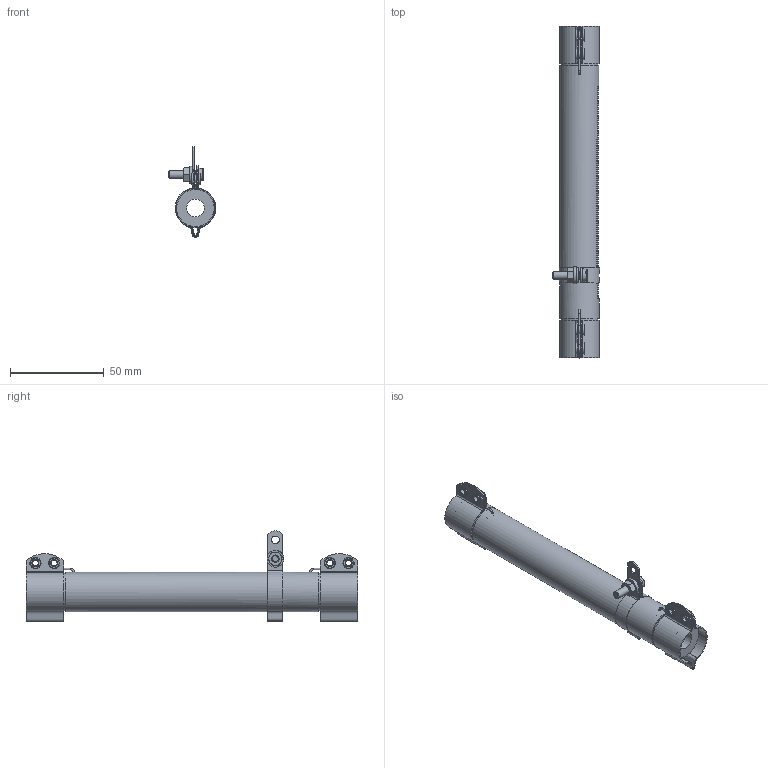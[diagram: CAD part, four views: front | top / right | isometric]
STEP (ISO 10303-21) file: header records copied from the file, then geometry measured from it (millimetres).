
FILE_DESCRIPTION(/* description */ (''),/* implementation_level */ '2;1');
FILE_NAME(/* name */ 'C:\_Vault\Dati\CATALOGO\RC-RS\RC-RS R TF\RSR TF 110.stp',/* time_stamp */ '2014-03-21T09:11:18+01:00',/* author */ ('stefano'),/* organization */ (''),/* preprocessor_version */ 'ST-DEVELOPER v15.2',/* originating_system */ 'Autodesk Inventor 2014',/* authorisation */ '');
FILE_SCHEMA (('AUTOMOTIVE_DESIGN { 1 0 10303 214 3 1 1 }'));
Length unit declared in the file: millimetre
Products named in the file (1): RSR TF 110
Bounding box: 25.25 x 177 x 48.2 mm (x, y, z)
Volume: 46913.2 mm3; surface area: 22714.8 mm2
Topology: 1 solids, 5 shells, 511 faces, 1416 edges, 933 vertices
Faces by surface type: plane 338, cylinder 125, torus 20, cone 16, bspline 12
Full cylindrical faces by diameter (mm): 0.4 x2, 0.8 x4, 3.2 x4, 3.571 x1, 4 x2, 4.2 x11, 4.3 x1, 6 x8, 9 x1, 9.5 x1, 20 x2, 21 x1
Entity records: 17297 total; most frequent: CARTESIAN_POINT 3683, DIRECTION 2770, ORIENTED_EDGE 2674, EDGE_CURVE 1337, AXIS2_PLACEMENT_3D 1006, VERTEX_POINT 915, LINE 758, VECTOR 758
